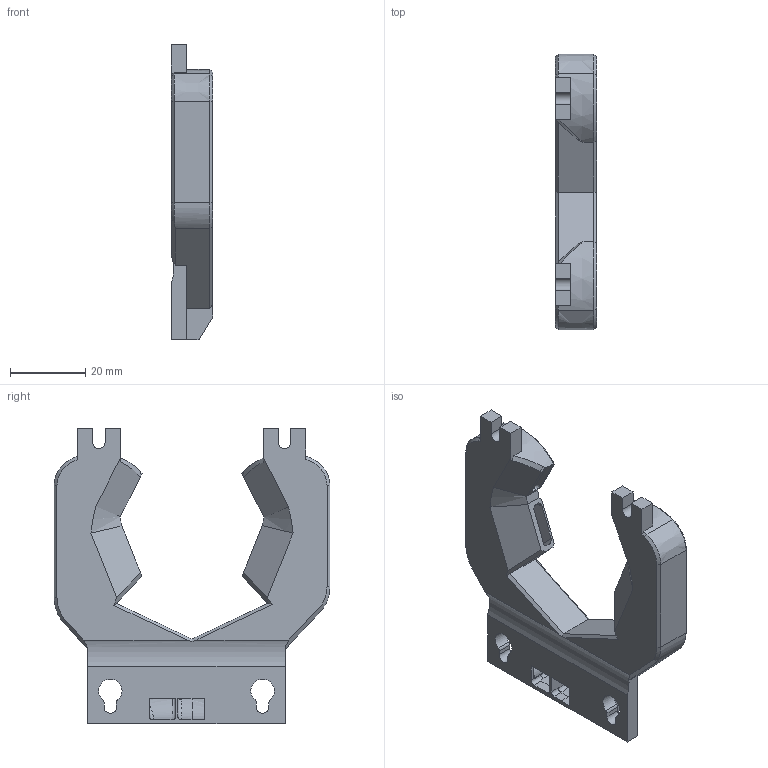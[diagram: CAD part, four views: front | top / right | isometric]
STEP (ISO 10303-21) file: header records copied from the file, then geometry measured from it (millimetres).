
FILE_DESCRIPTION(/* description */ (''),/* implementation_level */ '2;1');
FILE_NAME(/* name */ 'C:/Users/Martin/Documents/icarus-2.1/icarus-2-current-step-files/4-fan-ducts/icarus-fan-duct-keyhole-slot-2.5.step',/* time_stamp */ '2022-09-18T10:43:55+02:00',/* author */ (''),/* organization */ (''),/* preprocessor_version */ 'ST-DEVELOPER v19',/* originating_system */ 'Autodesk Translation Framework v11.7.0.108',/* authorisation */ '');
FILE_SCHEMA (('AUTOMOTIVE_DESIGN { 1 0 10303 214 3 1 1 }'));
Length unit declared in the file: millimetre
Products named in the file (1): icarus-fan-duct-2.1
Bounding box: 11 x 73.3 x 78.54 mm (x, y, z)
Volume: 12847.6 mm3; surface area: 17797 mm2
Topology: 1 solids, 1 shells, 323 faces, 902 edges, 574 vertices
Faces by surface type: plane 128, bspline 113, cylinder 71, torus 7, cone 4
Entity records: 15569 total; most frequent: CARTESIAN_POINT 7941, ORIENTED_EDGE 1794, DIRECTION 1259, EDGE_CURVE 897, VERTEX_POINT 574, LINE 449, VECTOR 449, AXIS2_PLACEMENT_3D 405
